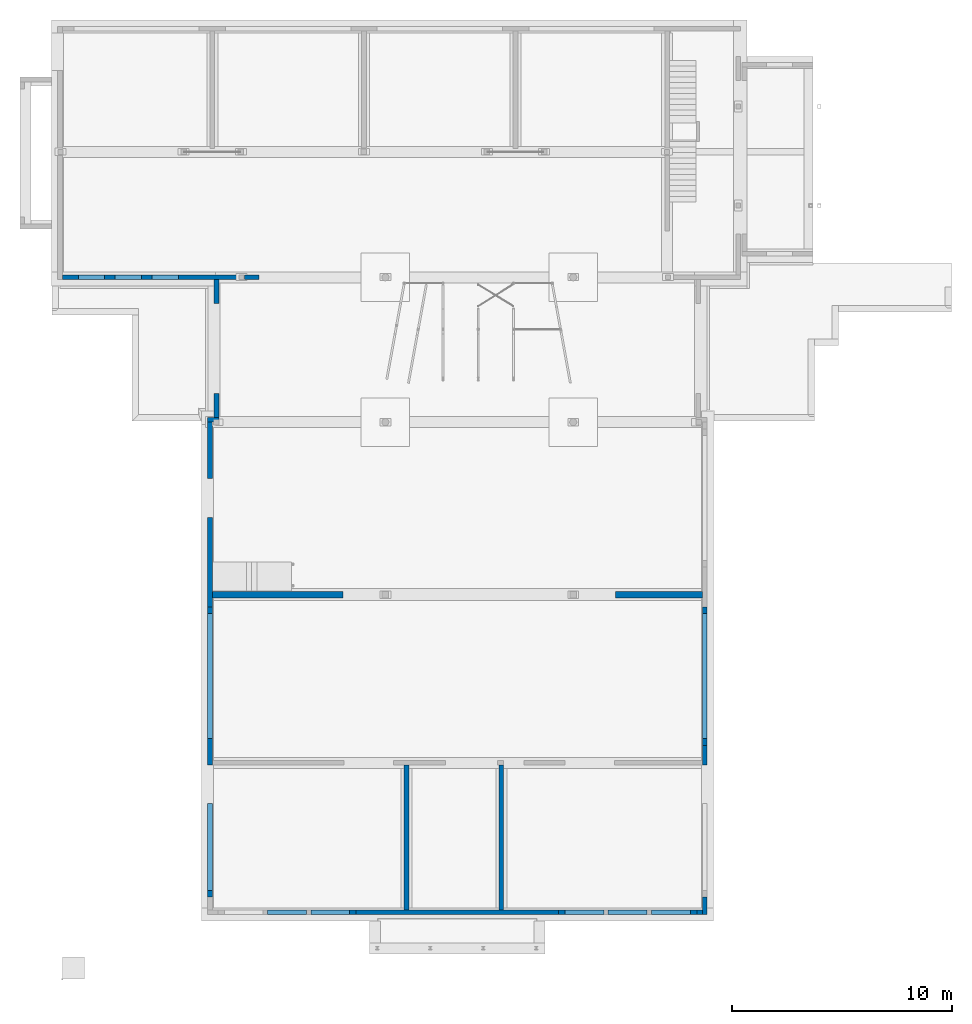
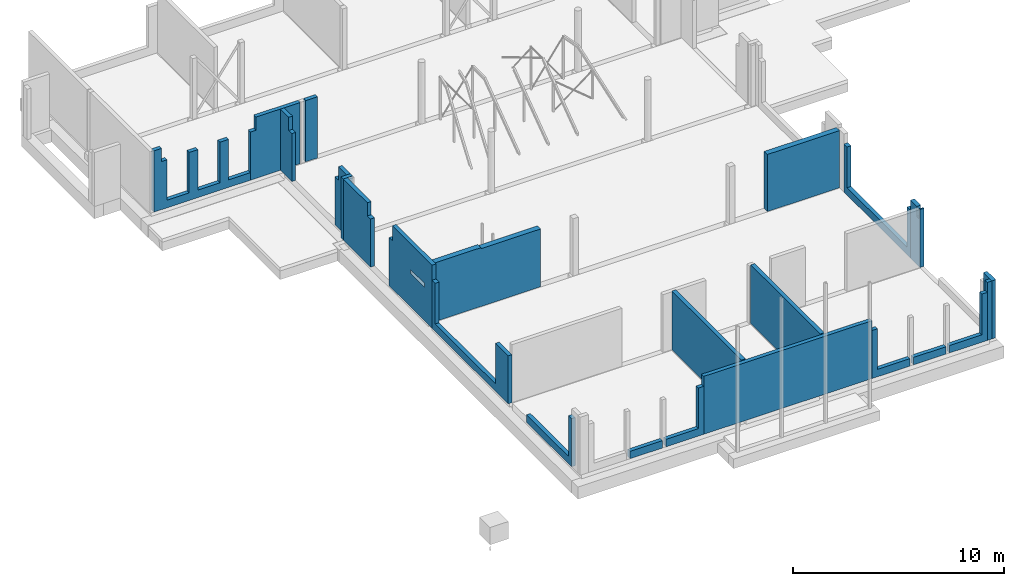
# One storey, part 14 of 17: 23 walls, 22 openings.
"""IFC2X3 building model written with IfcOpenShell, lengths in millimetres."""

from ifc_helpers import new_model, entity, si_unit, converted_unit, derived_unit, direction, frame, frame_2d, origin, origin_2d_with_axis, place, context, subcontext, project, spatial, polyline, rectangle, extrude, clip, bounded_halfspace, material, layer, layer_set, layer_usage, type_object, element, save


model = new_model("IFC2X3")

# Units and contexts
model_context = context("Model", 3, precision=0.01, world=origin(), true_north=direction((6.123031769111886e-17, 1.0)))
body_context = subcontext(model_context, "Body", "Model", "MODEL_VIEW")
ifc_project = project(units=[si_unit("LENGTHUNIT", "METRE", prefix="MILLI"), si_unit("AREAUNIT", "SQUARE_METRE", prefix="MILLI"), si_unit("VOLUMEUNIT", "CUBIC_METRE"), converted_unit("PLANEANGLEUNIT", "DEGREE", entity("IfcPlaneAngleMeasure", 0.017453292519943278), si_unit("PLANEANGLEUNIT", "RADIAN"), dimensions=[0, 0, 0, 0, 0, 0, 0]), si_unit("MASSUNIT", "GRAM", prefix="KILO"), derived_unit("MASSDENSITYUNIT", [(si_unit("MASSUNIT", "GRAM", prefix="KILO"), 1), (si_unit("LENGTHUNIT", "METRE"), -3)]), derived_unit("IONCONCENTRATIONUNIT", [(si_unit("MASSUNIT", "GRAM", prefix="KILO"), 1), (si_unit("LENGTHUNIT", "METRE"), -3)]), derived_unit("MOMENTOFINERTIAUNIT", [(si_unit("LENGTHUNIT", "METRE"), 4)]), si_unit("TIMEUNIT", "SECOND"), si_unit("FREQUENCYUNIT", "HERTZ"), si_unit("THERMODYNAMICTEMPERATUREUNIT", "DEGREE_CELSIUS"), derived_unit("THERMALTRANSMITTANCEUNIT", [(si_unit("MASSUNIT", "GRAM", prefix="KILO"), 1), (si_unit("THERMODYNAMICTEMPERATUREUNIT", "KELVIN"), -1), (si_unit("TIMEUNIT", "SECOND"), -3)]), derived_unit("THERMALCONDUCTANCEUNIT", [(si_unit("MASSUNIT", "GRAM", prefix="KILO"), 1), (si_unit("THERMODYNAMICTEMPERATUREUNIT", "KELVIN"), -1), (si_unit("TIMEUNIT", "SECOND"), -3), (si_unit("LENGTHUNIT", "METRE"), 1)]), derived_unit("VOLUMETRICFLOWRATEUNIT", [(si_unit("LENGTHUNIT", "METRE", prefix="DECI"), 3), (si_unit("TIMEUNIT", "SECOND"), -1)]), derived_unit("MASSFLOWRATEUNIT", [(si_unit("MASSUNIT", "GRAM", prefix="KILO"), 1), (si_unit("TIMEUNIT", "SECOND"), -1)]), derived_unit("ROTATIONALFREQUENCYUNIT", [(si_unit("TIMEUNIT", "SECOND"), -1)]), si_unit("ELECTRICCURRENTUNIT", "AMPERE"), si_unit("ELECTRICVOLTAGEUNIT", "VOLT"), si_unit("POWERUNIT", "WATT"), si_unit("FORCEUNIT", "NEWTON", prefix="KILO"), si_unit("ILLUMINANCEUNIT", "LUX"), si_unit("LUMINOUSFLUXUNIT", "LUMEN"), si_unit("LUMINOUSINTENSITYUNIT", "CANDELA"), si_unit("ENERGYUNIT", "JOULE"), derived_unit("USERDEFINED", [(si_unit("MASSUNIT", "GRAM", prefix="KILO"), -1), (si_unit("LENGTHUNIT", "METRE"), -2), (si_unit("TIMEUNIT", "SECOND"), 3), (si_unit("LUMINOUSFLUXUNIT", "LUMEN"), 1)]), derived_unit("USERDEFINED", [(si_unit("MASSUNIT", "GRAM", prefix="KILO"), 1), (si_unit("TIMEUNIT", "SECOND"), -3), (si_unit("LENGTHUNIT", "METRE"), 3), (si_unit("ELECTRICCURRENTUNIT", "AMPERE"), -2)]), derived_unit("SOUNDPOWERUNIT", [(si_unit("MASSUNIT", "GRAM", prefix="KILO"), 1), (si_unit("TIMEUNIT", "SECOND"), -3), (si_unit("LENGTHUNIT", "METRE"), 2)]), derived_unit("SOUNDPRESSUREUNIT", [(si_unit("MASSUNIT", "GRAM", prefix="KILO"), 1), (si_unit("LENGTHUNIT", "METRE"), -1), (si_unit("TIMEUNIT", "SECOND"), -2)]), derived_unit("LINEARVELOCITYUNIT", [(si_unit("LENGTHUNIT", "METRE"), 1), (si_unit("TIMEUNIT", "SECOND"), -1)]), si_unit("PRESSUREUNIT", "PASCAL"), derived_unit("USERDEFINED", [(si_unit("MASSUNIT", "GRAM", prefix="KILO"), 1), (si_unit("LENGTHUNIT", "METRE"), -2), (si_unit("TIMEUNIT", "SECOND"), -2)]), derived_unit("LINEARFORCEUNIT", [(si_unit("MASSUNIT", "GRAM", prefix="KILO"), 1), (si_unit("TIMEUNIT", "SECOND"), -2)]), derived_unit("PLANARFORCEUNIT", [(si_unit("MASSUNIT", "GRAM", prefix="KILO"), 1), (si_unit("LENGTHUNIT", "METRE"), -1), (si_unit("TIMEUNIT", "SECOND"), -2)]), derived_unit("SPECIFICHEATCAPACITYUNIT", [(si_unit("THERMODYNAMICTEMPERATUREUNIT", "KELVIN"), -1), (si_unit("LENGTHUNIT", "METRE"), 2), (si_unit("TIMEUNIT", "SECOND"), -2)]), derived_unit("HEATFLUXDENSITYUNIT", [(si_unit("MASSUNIT", "GRAM", prefix="KILO"), 1), (si_unit("TIMEUNIT", "SECOND"), -3)]), derived_unit("HEATINGVALUEUNIT", [(si_unit("LENGTHUNIT", "METRE"), 2), (si_unit("TIMEUNIT", "SECOND"), -2)]), derived_unit("VAPORPERMEABILITYUNIT", [(si_unit("LENGTHUNIT", "METRE"), -1), (si_unit("TIMEUNIT", "SECOND"), 1)]), derived_unit("DYNAMICVISCOSITYUNIT", [(si_unit("MASSUNIT", "GRAM", prefix="KILO"), 1), (si_unit("TIMEUNIT", "SECOND"), -1), (si_unit("LENGTHUNIT", "METRE"), -1)]), derived_unit("THERMALEXPANSIONCOEFFICIENTUNIT", [(si_unit("THERMODYNAMICTEMPERATUREUNIT", "KELVIN"), -1)]), derived_unit("MODULUSOFELASTICITYUNIT", [(si_unit("MASSUNIT", "GRAM", prefix="KILO"), 1), (si_unit("LENGTHUNIT", "METRE"), -1), (si_unit("TIMEUNIT", "SECOND"), -2)]), derived_unit("ISOTHERMALMOISTURECAPACITYUNIT", [(si_unit("MASSUNIT", "GRAM", prefix="KILO"), -1), (si_unit("LENGTHUNIT", "METRE"), 3)]), derived_unit("MOISTUREDIFFUSIVITYUNIT", [(si_unit("TIMEUNIT", "SECOND"), -1), (si_unit("LENGTHUNIT", "METRE"), 2)]), derived_unit("MASSPERLENGTHUNIT", [(si_unit("MASSUNIT", "GRAM", prefix="KILO"), 1), (si_unit("LENGTHUNIT", "METRE"), -1)]), derived_unit("THERMALRESISTANCEUNIT", [(si_unit("MASSUNIT", "GRAM", prefix="KILO"), -1), (si_unit("TIMEUNIT", "SECOND"), 3), (si_unit("THERMODYNAMICTEMPERATUREUNIT", "KELVIN"), 1)]), derived_unit("ACCELERATIONUNIT", [(si_unit("LENGTHUNIT", "METRE"), 1), (si_unit("TIMEUNIT", "SECOND"), -2)]), derived_unit("ANGULARVELOCITYUNIT", [(si_unit("TIMEUNIT", "SECOND"), -1), (si_unit("PLANEANGLEUNIT", "RADIAN"), 1)]), derived_unit("LINEARSTIFFNESSUNIT", [(si_unit("MASSUNIT", "GRAM", prefix="KILO"), 1), (si_unit("TIMEUNIT", "SECOND"), -2)]), derived_unit("WARPINGCONSTANTUNIT", [(si_unit("LENGTHUNIT", "METRE"), 6)]), derived_unit("LINEARMOMENTUNIT", [(si_unit("MASSUNIT", "GRAM", prefix="KILO"), 1), (si_unit("LENGTHUNIT", "METRE"), 1), (si_unit("TIMEUNIT", "SECOND"), -2)]), derived_unit("TORQUEUNIT", [(si_unit("MASSUNIT", "GRAM", prefix="KILO"), 1), (si_unit("LENGTHUNIT", "METRE"), 2), (si_unit("TIMEUNIT", "SECOND"), -2)])], contexts=[model_context])

# Site, building, storey
site_placement = place(None, origin())
site = spatial("IfcSite", under=ifc_project, at=site_placement, Name="Default", CompositionType="ELEMENT")
building_placement = place(site_placement, origin())
building = spatial("IfcBuilding", under=site, at=building_placement, CompositionType="ELEMENT")
storey_placement = place(building_placement, frame((0.0, 0.0, -70.0)))
storey = spatial("IfcBuildingStorey", under=building, at=storey_placement, Name="F1 begg (bk ruwe vloer)", CompositionType="ELEMENT", Elevation=-69.99999999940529)

# Wall, openings
ifc_material = material(Name="Kalkzandsteen, lijmwerk CS12")
ifc_layer_1 = layer(ifc_material, 214.0)
ifc_layer_set_1 = layer_set([ifc_layer_1], Name="Basic Wall:bt_kzst 214")
ifc_layer_usage_1 = layer_usage(ifc_layer_set_1, "AXIS2", "POSITIVE", -107.0)
wall_type_1 = type_object("IfcWallType", Name="Basic Wall:bt_kzst 214", PredefinedType="STANDARD", material=ifc_layer_set_1)
wall_1_placement = place(storey_placement, frame((0.0, 31937.573165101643, 0.0)))
wall_1 = element("IfcWallStandardCase", 1, at=wall_1_placement, inside=storey, type_object=wall_type_1, material=ifc_layer_usage_1, Name="Basic Wall:bt_kzst 214", ObjectType="Basic Wall:bt_kzst 214", context=body_context, shape_type="SweptSolid", body=[
    extrude(rectangle(XDim=5285.648410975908, YDim=214.00000000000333, at=frame_2d((2642.824205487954, -3.055333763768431e-13), x_axis=(-1.0, 0.0))), origin(), (0.0, 0.0, 1.0), 3539.9999999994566),
])
opening_1_placement = place(wall_1_placement, origin())
element("IfcOpeningElement", 2, at=opening_1_placement, cuts=wall_1, Name="Basic Wall:bt_kzst 214", ObjectType="Opening", context=body_context, shape_type="SweptSolid", body=[
    extrude(rectangle(XDim=1222.0000000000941, YDim=4859.996607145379, at=frame_2d((2.8421709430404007e-13, 0.0), x_axis=(1.0, 0.0))), frame((2855.650107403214, -107.0, 3389.0), z_axis=(0.0, 1.0, 0.0), x_axis=(0.0, 0.0, -1.0)), (0.0, 0.0, 1.0), 214.00000000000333),
])
opening_2_placement = place(wall_1_placement, frame((0.0, -31937.573165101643, 0.0)))
element("IfcOpeningElement", 3, at=opening_2_placement, cuts=wall_1, Name="Basic Wall:bt_kzst 214", ObjectType="Opening", context=body_context, shape_type="SweptSolid", body=[
    extrude(rectangle(XDim=2339.9999999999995, YDim=1200.284760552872, at=frame_2d((0.0, 1.1368683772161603e-13), x_axis=(1.0, 0.0))), frame((1325.832945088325, 30520.573165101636, 1608.0), z_axis=(0.0, 1.0, 0.0), x_axis=(0.0, 0.0, -1.0)), (0.0, 0.0, 1.0), 3048.0),
])
opening_3_placement = place(wall_1_placement, frame((0.0, -31937.573165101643, 0.0)))
element("IfcOpeningElement", 4, at=opening_3_placement, cuts=wall_1, Name="Basic Wall:bt_kzst 214", ObjectType="Opening", context=body_context, shape_type="SweptSolid", body=[
    extrude(rectangle(XDim=2339.9999999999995, YDim=1200.2847605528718, at=frame_2d((0.0, 2.8421709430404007e-13), x_axis=(1.0, 0.0))), frame((3005.7204526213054, 30520.573165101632, 1608.0), z_axis=(0.0, 1.0, 0.0), x_axis=(0.0, 0.0, -1.0)), (0.0, 0.0, 1.0), 3048.0),
])
opening_4_placement = place(wall_1_placement, frame((0.0, -31937.573165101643, 0.0)))
element("IfcOpeningElement", 5, at=opening_4_placement, cuts=wall_1, Name="Basic Wall:bt_kzst 214", ObjectType="Opening", context=body_context, shape_type="SweptSolid", body=[
    extrude(rectangle(XDim=2339.9999999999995, YDim=1200.2847605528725, at=frame_2d((0.0, -2.8421709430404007e-13), x_axis=(1.0, 0.0))), frame((4685.607838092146, 30520.57316510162, 1608.0), z_axis=(0.0, 1.0, 0.0), x_axis=(0.0, 0.0, -1.0)), (0.0, 0.0, 1.0), 3048.0),
])

wall_2_placement = place(storey_placement, frame((5285.648410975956, 31937.57320506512, 0.0)))
wall_2 = element("IfcWallStandardCase", 6, at=wall_2_placement, inside=storey, type_object=wall_type_1, material=ifc_layer_usage_1, Name="Basic Wall:bt_kzst 214", ObjectType="Basic Wall:bt_kzst 214", context=body_context, shape_type="SweptSolid", body=[
    extrude(rectangle(XDim=2714.907913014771, YDim=214.00000000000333, at=frame_2d((1357.4539565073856, 4.831690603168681e-13), x_axis=(-1.0, 0.0))), origin(), (0.0, 0.0, 1.0), 3539.999999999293),
])
opening_5_placement = place(wall_2_placement, origin())
element("IfcOpeningElement", 7, at=opening_5_placement, cuts=wall_2, Name="Basic Wall:bt_kzst 214", ObjectType="Opening", context=body_context, shape_type="SweptSolid", body=[
    extrude(rectangle(XDim=1222.0000000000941, YDim=300.0000000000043, at=frame_2d((2.8421709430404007e-13, 5.542233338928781e-13), x_axis=(1.0, 0.0))), frame((150.0, -107.0, 3389.0), z_axis=(0.0, 1.0, 0.0), x_axis=(0.0, 0.0, -1.0)), (0.0, 0.0, 1.0), 214.00000000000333),
])
opening_6_placement = place(wall_2_placement, origin())
element("IfcOpeningElement", 8, at=opening_6_placement, cuts=wall_2, Name="Basic Wall:bt_kzst 214", ObjectType="Opening", context=body_context, shape_type="SweptSolid", body=[
    extrude(rectangle(XDim=2339.9999999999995, YDim=1200.2847605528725, at=frame_2d((0.0, -2.8421709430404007e-13), x_axis=(1.0, 0.0))), frame((-600.0405728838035, -1417.0000399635, 1608.0), z_axis=(0.0, 1.0, 0.0), x_axis=(0.0, 0.0, -1.0)), (0.0, 0.0, 1.0), 3048.0),
])

# Wall, opening
wall_3_placement = place(storey_placement, frame((7018.024359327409, 31830.573205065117, 0.0), z_axis=(0.0, 0.0, 1.0), x_axis=(0.0, -1.0, 0.0)))
wall_3 = element("IfcWallStandardCase", 9, at=wall_3_placement, inside=storey, type_object=wall_type_1, material=ifc_layer_usage_1, Name="Basic Wall:bt_kzst 214", ObjectType="Basic Wall:bt_kzst 214", context=body_context, shape_type="Clipping", body=[
    clip(extrude(rectangle(XDim=1084.0633514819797, YDim=214.00000000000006, at=frame_2d((542.0316757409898, 3.481659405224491e-13), x_axis=(-1.0, 0.0))), origin(), (0.0, 0.0, 1.0), 3539.999999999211), bounded_halfspace(frame((0.0, 107.0, 3540.0), z_axis=(0.0, 0.0, -1.0), x_axis=(0.0, -1.0, 0.0)), True, frame((0.0, 107.0, 3540.0)), polyline([(0.0, 0.0), (0.0, -214.0), (784.06335148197, -214.0), (784.06335148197, 0.0), (0.0, 0.0)]))),
])
opening_7_placement = place(wall_3_placement, origin())
element("IfcOpeningElement", 10, at=opening_7_placement, cuts=wall_3, Name="Basic Wall:bt_kzst 214", ObjectType="Opening", context=body_context, shape_type="SweptSolid", body=[
    extrude(rectangle(XDim=1171.9999999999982, YDim=300.00000000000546, at=frame_2d((2.8421709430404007e-13, -2.1742607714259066e-12), x_axis=(1.0, 0.0))), frame((934.0633514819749, -107.0, 3364.0), z_axis=(0.0, 1.0, 0.0), x_axis=(0.0, 0.0, -1.0)), (0.0, 0.0, 1.0), 213.999999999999),
])

wall_4_placement = place(storey_placement, frame((6718.000781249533, 25344.57843432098, 0.0), z_axis=(0.0, 0.0, 1.0), x_axis=(0.0, -1.0, 0.0)))
wall_4 = element("IfcWallStandardCase", 11, at=wall_4_placement, inside=storey, type_object=wall_type_1, material=ifc_layer_usage_1, Name="Basic Wall:bt_kzst 214", ObjectType="Basic Wall:bt_kzst 214", context=body_context, shape_type="SweptSolid", body=[
    extrude(rectangle(XDim=2573.4426529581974, YDim=214.00000000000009, at=frame_2d((1286.7213264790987, -6.252776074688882e-13), x_axis=(-1.0, 0.0))), origin(), (0.0, 0.0, 1.0), 3539.999999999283),
])
opening_8_placement = place(wall_4_placement, origin())
element("IfcOpeningElement", 12, at=opening_8_placement, cuts=wall_4, Name="Basic Wall:bt_kzst 214", ObjectType="Opening", context=body_context, shape_type="SweptSolid", body=[
    extrude(rectangle(XDim=1222.0000000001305, YDim=300.0000000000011, at=origin_2d_with_axis()), frame((2423.4426529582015, -107.0, 3389.0), z_axis=(0.0, 1.0, 0.0), x_axis=(0.0, 0.0, -1.0)), (0.0, 0.0, 1.0), 213.99999999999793),
])

# Walls
ifc_layer_usage_2 = layer_usage(ifc_layer_set_1, "AXIS2", "NEGATIVE", 107.0)
wall_5_placement = place(storey_placement, frame((6611.000781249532, 25451.578434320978, 0.0)))
element("IfcWallStandardCase", 13, at=wall_5_placement, inside=storey, type_object=wall_type_1, material=ifc_layer_usage_2, Name="Basic Wall:bt_kzst 214", ObjectType="Basic Wall:bt_kzst 214", context=body_context, shape_type="Clipping", body=[
    clip(extrude(rectangle(XDim=514.0235780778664, YDim=214.00000000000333, at=frame_2d((257.0117890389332, 0.0), x_axis=(-1.0, 0.0))), origin(), (0.0, 0.0, 1.0), 3539.9999999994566), bounded_halfspace(frame((514.0235780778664, 33.026578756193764, 3540.0), z_axis=(0.0, 0.0, -1.0), x_axis=(-1.0, 0.0, 0.0)), True, frame((514.0235780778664, 33.026578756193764, 3540.0)), polyline([(0.0, 0.0), (0.0, 73.9734212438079), (-214.0, 73.9734212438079), (-214.0, 0.0), (0.0, 0.0)]))),
])
wall_6_placement = place(storey_placement, frame((29231.985770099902, 2930.605013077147, 0.0), z_axis=(0.0, 0.0, 1.0), x_axis=(0.0, 1.0, 0.0)))
element("IfcWallStandardCase", 14, at=wall_6_placement, inside=storey, type_object=wall_type_1, material=ifc_layer_usage_1, Name="Basic Wall:bt_kzst 214", ObjectType="Basic Wall:bt_kzst 214", context=body_context, shape_type="Clipping", body=[
    clip(extrude(rectangle(XDim=807.0000000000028, YDim=214.00000000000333, at=frame_2d((403.5000000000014, -1.8332002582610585e-12), x_axis=(-1.0, 0.0))), origin(), (0.0, 0.0, 1.0), 3349.9999999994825), bounded_halfspace(frame((0.0, -107.0, 3350.0), z_axis=(0.0, 0.0, -1.0), x_axis=(-1.0, 0.0, 0.0)), True, frame((0.0, -107.0, 3350.0)), polyline([(0.0, 0.0), (807.0, 0.0), (807.0, 214.0), (214.0, 214.0), (0.0, 214.0), (0.0, 0.0)]))),
])
wall_7_placement = place(storey_placement, frame((15664.841685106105, 9737.605013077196, 0.0), z_axis=(0.0, 0.0, 1.0), x_axis=(0.0, -1.0, 0.0)))
element("IfcWallStandardCase", 15, at=wall_7_placement, inside=storey, type_object=wall_type_1, material=ifc_layer_usage_2, Name="Basic Wall:bt_kzst 214", ObjectType="Basic Wall:bt_kzst 214", context=body_context, shape_type="SweptSolid", body=[
    extrude(rectangle(XDim=6593.000000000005, YDim=213.99999999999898, at=frame_2d((3296.5000000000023, -7.815970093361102e-14), x_axis=(-1.0, 0.0))), origin(), (0.0, 0.0, 1.0), 3399.9999999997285),
])
wall_8_placement = place(storey_placement, frame((19978.355754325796, 9737.605013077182, 0.0), z_axis=(0.0, 0.0, 1.0), x_axis=(0.0, -1.0, 0.0)))
element("IfcWallStandardCase", 16, at=wall_8_placement, inside=storey, type_object=wall_type_1, material=ifc_layer_usage_2, Name="Basic Wall:bt_kzst 214", ObjectType="Basic Wall:bt_kzst 214", context=body_context, shape_type="SweptSolid", body=[
    extrude(rectangle(XDim=6593.000000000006, YDim=214.00000000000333, at=frame_2d((3296.500000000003, 1.0089706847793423e-12), x_axis=(-1.0, 0.0))), origin(), (0.0, 0.0, 1.0), 3399.9999999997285),
])

# Wall, openings
wall_9_placement = place(storey_placement, frame((6718.000781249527, 21011.0503279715, 0.0), z_axis=(0.0, 0.0, 1.0), x_axis=(0.0, -1.0, 0.0)))
wall_9 = element("IfcWallStandardCase", 17, at=wall_9_placement, inside=storey, type_object=wall_type_1, material=ifc_layer_usage_1, Name="Basic Wall:bt_kzst 214", ObjectType="Basic Wall:bt_kzst 214", context=body_context, shape_type="SweptSolid", body=[
    extrude(rectangle(XDim=4067.651496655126, YDim=213.999999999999, at=frame_2d((2033.825748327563, 0.0), x_axis=(-1.0, 0.0))), origin(), (0.0, 0.0, 1.0), 3649.9999999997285),
])
opening_9_placement = place(wall_9_placement, origin())
element("IfcOpeningElement", 18, at=opening_9_placement, cuts=wall_9, Name="Basic Wall:bt_kzst 214", ObjectType="Opening", context=body_context, shape_type="SweptSolid", body=[
    extrude(rectangle(XDim=1172.0000000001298, YDim=300.0000000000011, at=origin_2d_with_axis()), frame((150.0, -107.0, 3364.0), z_axis=(0.0, 1.0, 0.0), x_axis=(0.0, 0.0, -1.0)), (0.0, 0.0, 1.0), 213.99999999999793),
])
opening_10_placement = place(wall_9_placement, origin())
element("IfcOpeningElement", 19, at=opening_10_placement, cuts=wall_9, Name="Basic Wall:bt_kzst 214", ObjectType="Opening", context=body_context, shape_type="SweptSolid", body=[
    extrude(rectangle(XDim=219.9999999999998, YDim=1311.1778183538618, at=frame_2d((1.0800249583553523e-12, 0.0), x_axis=(0.0, 1.0))), frame((2685.8564057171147, -107.0, 2049.9990234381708), z_axis=(0.0, 1.0, 0.0), x_axis=(1.0, 0.0, 0.0)), (0.0, 0.0, 1.0), 214.00000000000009),
])

# Wall
wall_10_placement = place(storey_placement, frame((8300.556323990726, 31937.573165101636, 0.0)))
element("IfcWallStandardCase", 20, at=wall_10_placement, inside=storey, type_object=wall_type_1, material=ifc_layer_usage_1, Name="Basic Wall:bt_kzst 214", ObjectType="Basic Wall:bt_kzst 214", context=body_context, shape_type="SweptSolid", body=[
    extrude(rectangle(XDim=649.0698295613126, YDim=214.00000000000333, at=frame_2d((324.5349147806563, -1.0160761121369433e-12), x_axis=(-1.0, 0.0))), origin(), (0.0, 0.0, 1.0), 3539.999999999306),
])

# Wall, opening
wall_11_placement = place(storey_placement, frame((7018.024359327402, 26642.309544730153, 0.0), z_axis=(0.0, 0.0, 1.0), x_axis=(0.0, -1.0, 0.0)))
wall_11 = element("IfcWallStandardCase", 21, at=wall_11_placement, inside=storey, type_object=wall_type_1, material=ifc_layer_usage_1, Name="Basic Wall:bt_kzst 214", ObjectType="Basic Wall:bt_kzst 214", context=body_context, shape_type="Clipping", body=[
    clip(extrude(rectangle(XDim=1083.7311104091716, YDim=214.00000000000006, at=frame_2d((541.8655552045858, -7.318590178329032e-13), x_axis=(-1.0, 0.0))), origin(), (0.0, 0.0, 1.0), 3539.999999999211), bounded_halfspace(frame((1083.7311104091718, -107.0, 3540.0), z_axis=(0.0, 0.0, -1.0), x_axis=(0.0, -1.0, 0.0)), True, frame((1083.7311104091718, -107.0, 3540.0)), polyline([(0.0, 0.0), (0.0, 214.0), (-783.7311104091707, 214.0), (-783.7311104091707, 0.0), (0.0, 0.0)]))),
])
opening_11_placement = place(wall_11_placement, origin())
element("IfcOpeningElement", 22, at=opening_11_placement, cuts=wall_11, Name="Basic Wall:bt_kzst 214", ObjectType="Opening", context=body_context, shape_type="SweptSolid", body=[
    extrude(rectangle(XDim=1171.9999999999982, YDim=300.0000000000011, at=frame_2d((2.8421709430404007e-13, 0.0), x_axis=(1.0, 0.0))), frame((150.0, -107.0, 3364.0), z_axis=(0.0, 1.0, 0.0), x_axis=(0.0, 0.0, -1.0)), (0.0, 0.0, 1.0), 213.99999999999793),
])

# Walls
wall_12_placement = place(storey_placement, frame((13375.237853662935, 3037.6050130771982, 0.0)))
element("IfcWallStandardCase", 23, at=wall_12_placement, inside=storey, type_object=wall_type_1, material=ifc_layer_usage_1, Name="Basic Wall:bt_kzst 214", ObjectType="Basic Wall:bt_kzst 214", context=body_context, shape_type="Clipping", body=[
    clip(extrude(rectangle(XDim=9200.408467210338, YDim=214.00000000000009, at=frame_2d((4600.204233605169, 1.7763568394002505e-13), x_axis=(-1.0, 0.0))), origin(), (0.0, 0.0, 1.0), 3349.9999999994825), bounded_halfspace(frame((0.0, -107.0, 3350.0), z_axis=(0.0, 0.0, -1.0), x_axis=(0.0, -1.0, 0.0)), True, frame((0.0, -107.0, 3350.0)), polyline([(0.0, 0.0), (9200.408467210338, 0.0), (9200.408467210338, 214.0), (0.0, 214.0), (0.0, 0.0)]))),
])
wall_13_placement = place(storey_placement, frame((28875.947849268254, 3037.6050130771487, 0.0)))
element("IfcWallStandardCase", 24, at=wall_13_placement, inside=storey, type_object=wall_type_1, material=ifc_layer_usage_1, Name="Basic Wall:bt_kzst 214", ObjectType="Basic Wall:bt_kzst 214", context=body_context, shape_type="Clipping", body=[
    clip(extrude(rectangle(XDim=249.0379208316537, YDim=214.00000000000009, at=frame_2d((124.51896041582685, 1.2789769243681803e-13), x_axis=(-1.0, 0.0))), origin(), (0.0, 0.0, 1.0), 3349.999999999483), bounded_halfspace(frame((0.0, -107.0, 3350.0), z_axis=(0.0, 0.0, -1.0), x_axis=(0.0, -1.0, 0.0)), True, frame((0.0, -107.0, 3350.0)), polyline([(0.0, 0.0), (249.03792083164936, 0.0), (249.037920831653, 214.0), (0.0, 214.0), (0.0, 0.0)]))),
])

# Wall, opening
wall_14_placement = place(storey_placement, frame((29231.98577009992, 9737.605013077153, 0.0), z_axis=(0.0, 0.0, 1.0), x_axis=(0.0, 1.0, 0.0)))
wall_14 = element("IfcWallStandardCase", 25, at=wall_14_placement, inside=storey, type_object=wall_type_1, material=ifc_layer_usage_1, Name="Basic Wall:bt_kzst 214", ObjectType="Basic Wall:bt_kzst 214", context=body_context, shape_type="Clipping", body=[
    clip(extrude(rectangle(XDim=900.7427120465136, YDim=214.00000000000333, at=frame_2d((450.3713560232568, 0.0), x_axis=(-1.0, 0.0))), origin(), (0.0, 0.0, 1.0), 3349.9999999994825), bounded_halfspace(frame((900.7427120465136, -107.0, 3350.0), z_axis=(0.0, 0.0, -1.0), x_axis=(1.0, 0.0, 0.0)), True, frame((900.7427120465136, -107.0, 3350.0)), polyline([(0.0, 0.0), (0.0, 214.0), (-600.4648664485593, 214.0), (-600.4648664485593, 0.0), (0.0, 0.0)]))),
])
opening_12_placement = place(wall_14_placement, origin())
element("IfcOpeningElement", 26, at=opening_12_placement, cuts=wall_14, Name="Basic Wall:bt_kzst 214", ObjectType="Opening", context=body_context, shape_type="SweptSolid", body=[
    extrude(rectangle(XDim=1031.9999999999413, YDim=221.32183320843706, at=frame_2d((2.2737367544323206e-13, 1.0800249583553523e-12), x_axis=(1.0, 0.0))), frame((189.61692899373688, -107.0, 3294.0), z_axis=(0.0, 1.0, 0.0), x_axis=(0.0, 0.0, -1.0)), (0.0, 0.0, 1.0), 214.00000000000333),
])

# Wall, openings
wall_15_placement = place(storey_placement, frame((6718.000781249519, 16943.398831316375, 0.0), z_axis=(0.0, 0.0, 1.0), x_axis=(0.0, -1.0, 0.0)))
wall_15 = element("IfcWallStandardCase", 27, at=wall_15_placement, inside=storey, type_object=wall_type_1, material=ifc_layer_usage_1, Name="Basic Wall:bt_kzst 214", ObjectType="Basic Wall:bt_kzst 214", context=body_context, shape_type="SweptSolid", body=[
    extrude(rectangle(XDim=214.00000000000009, YDim=13205.793818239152, at=frame_2d((6602.896909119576, -3.055333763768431e-13), x_axis=(0.0, 1.0))), origin(), (0.0, 0.0, 1.0), 2777.9999999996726),
])
opening_13_placement = place(wall_15_placement, frame((16943.398831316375, -6718.000781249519, 0.0), z_axis=(0.0, 0.0, 1.0), x_axis=(0.0, 1.0, 0.0)))
element("IfcOpeningElement", 28, at=opening_13_placement, cuts=wall_15, Name="Basic Wall:bt_kzst 214", ObjectType="Opening", context=body_context, shape_type="SweptSolid", body=[
    extrude(rectangle(XDim=2348.000000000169, YDim=5700.300226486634, at=origin_2d_with_axis()), frame((5301.000781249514, 13792.230385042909, 1604.0), z_axis=(1.0, 0.0, 0.0), x_axis=(0.0, 0.0, -1.0)), (0.0, 0.0, 1.0), 3048.0),
])
opening_14_placement = place(wall_15_placement, frame((16943.398831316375, -6718.000781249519, 0.0), z_axis=(0.0, 0.0, 1.0), x_axis=(0.0, 1.0, 0.0)))
element("IfcOpeningElement", 29, at=opening_14_placement, cuts=wall_15, Name="Basic Wall:bt_kzst 214", ObjectType="Opening", context=body_context, shape_type="SweptSolid", body=[
    extrude(rectangle(XDim=2348.000000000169, YDim=3955.208315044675, at=origin_2d_with_axis()), frame((5301.000781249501, 6018.914725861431, 1604.0), z_axis=(1.0, 0.0, 0.0), x_axis=(0.0, 0.0, -1.0)), (0.0, 0.0, 1.0), 3048.0),
])
opening_15_placement = place(wall_15_placement, frame((16943.398831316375, -6718.000781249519, 0.0), z_axis=(0.0, 0.0, 1.0), x_axis=(0.0, 1.0, 0.0)))
element("IfcOpeningElement", 30, at=opening_15_placement, cuts=wall_15, Name="Basic Wall:bt_kzst 214", ObjectType="Opening", context=body_context, shape_type="SweptSolid", body=[
    extrude(rectangle(XDim=2778.000000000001, YDim=1741.0861296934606, at=frame_2d((0.0, 5.684341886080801e-13), x_axis=(1.0, 0.0))), frame((6318.000781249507, 8867.061948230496, 1389.0), z_axis=(1.0, 0.0, 0.0), x_axis=(0.0, 0.0, -1.0)), (0.0, 0.0, 1.0), 800.0),
])

# Wall, opening
wall_16_placement = place(storey_placement, frame((22575.646320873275, 3037.605013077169, 0.0)))
wall_16 = element("IfcWallStandardCase", 31, at=wall_16_placement, inside=storey, type_object=wall_type_1, material=ifc_layer_usage_1, Name="Basic Wall:bt_kzst 214", ObjectType="Basic Wall:bt_kzst 214", context=body_context, shape_type="SweptSolid", body=[
    extrude(rectangle(XDim=2063.4138425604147, YDim=214.00000000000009, at=frame_2d((1031.7069212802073, -1.7763568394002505e-13), x_axis=(-1.0, 0.0))), origin(), (0.0, 0.0, 1.0), 2777.9999999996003),
])
opening_16_placement = place(wall_16_placement, origin())
element("IfcOpeningElement", 32, at=opening_16_placement, cuts=wall_16, Name="Basic Wall:bt_kzst 214", ObjectType="Opening", context=body_context, shape_type="SweptSolid", body=[
    extrude(rectangle(XDim=2348.0, YDim=5700.32586260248, at=frame_2d((0.0, 2.0463630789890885e-12), x_axis=(1.0, 0.0))), frame((3150.163175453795, -1417.0, 1604.0), z_axis=(0.0, 1.0, 0.0), x_axis=(0.0, 0.0, -1.0)), (0.0, 0.0, 1.0), 3048.0),
])

wall_17_placement = place(storey_placement, frame((29231.98577009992, 10638.347725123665, 0.0), z_axis=(0.0, 0.0, 1.0), x_axis=(0.0, 1.0, 0.0)))
wall_17 = element("IfcWallStandardCase", 33, at=wall_17_placement, inside=storey, type_object=wall_type_1, material=ifc_layer_usage_1, Name="Basic Wall:bt_kzst 214", ObjectType="Basic Wall:bt_kzst 214", context=body_context, shape_type="SweptSolid", body=[
    extrude(rectangle(XDim=6300.277845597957, YDim=214.00000000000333, at=frame_2d((3150.1389227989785, 0.0), x_axis=(-1.0, 0.0))), origin(), (0.0, 0.0, 1.0), 2777.9999999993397),
])
opening_17_placement = place(wall_17_placement, frame((-10638.347725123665, 29231.98577009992, 0.0), z_axis=(0.0, 0.0, 1.0), x_axis=(0.0, -1.0, 0.0)))
element("IfcOpeningElement", 34, at=opening_17_placement, cuts=wall_17, Name="Basic Wall:bt_kzst 214", ObjectType="Opening", context=body_context, shape_type="SweptSolid", body=[
    extrude(rectangle(XDim=2348.000000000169, YDim=5700.300226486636, at=frame_2d((-2.2737367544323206e-12, 0.0), x_axis=(0.0, 1.0))), frame((30862.985770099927, 13792.230385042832, 1604.0), z_axis=(-1.0, 0.0, 0.0), x_axis=(0.0, 1.0, 0.0)), (0.0, 0.0, 1.0), 3048.0),
])

wall_18_placement = place(storey_placement, frame((9340.144912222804, 3037.6050130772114, 0.0)))
wall_18 = element("IfcWallStandardCase", 35, at=wall_18_placement, inside=storey, type_object=wall_type_1, material=ifc_layer_usage_1, Name="Basic Wall:bt_kzst 214", ObjectType="Basic Wall:bt_kzst 214", context=body_context, shape_type="SweptSolid", body=[
    extrude(rectangle(XDim=1769.829029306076, YDim=214.00000000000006, at=frame_2d((884.9145146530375, 1.6342482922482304e-13), x_axis=(-1.0, 0.0))), origin(), (0.0, 0.0, 1.0), 429.9999999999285),
])
opening_18_placement = place(wall_18_placement, frame((-9340.144912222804, -3037.6050130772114, 0.0)))
element("IfcOpeningElement", 36, at=opening_18_placement, cuts=wall_18, Name="Basic Wall:bt_kzst 214", ObjectType="Opening", context=body_context, shape_type="SweptSolid", body=[
    extrude(rectangle(XDim=2348.0, YDim=5700.32586260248, at=frame_2d((0.0, 6.821210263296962e-13), x_axis=(1.0, 0.0))), frame((10225.856329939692, 1620.6050130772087, 1604.0), z_axis=(0.0, 1.0, 0.0), x_axis=(0.0, 0.0, -1.0)), (0.0, 0.0, 1.0), 3048.0),
])

wall_19_placement = place(storey_placement, frame((11309.973941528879, 3037.6050130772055, 0.0)))
wall_19 = element("IfcWallStandardCase", 37, at=wall_19_placement, inside=storey, type_object=wall_type_1, material=ifc_layer_usage_1, Name="Basic Wall:bt_kzst 214", ObjectType="Basic Wall:bt_kzst 214", context=body_context, shape_type="SweptSolid", body=[
    extrude(rectangle(XDim=2065.263912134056, YDim=214.00000000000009, at=frame_2d((1032.631956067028, -1.7763568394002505e-13), x_axis=(-1.0, 0.0))), origin(), (0.0, 0.0, 1.0), 2777.9999999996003),
])
opening_19_placement = place(wall_19_placement, origin())
element("IfcOpeningElement", 38, at=opening_19_placement, cuts=wall_19, Name="Basic Wall:bt_kzst 214", ObjectType="Opening", context=body_context, shape_type="SweptSolid", body=[
    extrude(rectangle(XDim=2348.0, YDim=5700.32586260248, at=frame_2d((0.0, 6.821210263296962e-13), x_axis=(1.0, 0.0))), frame((-1084.1176115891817, -1417.0, 1604.0), z_axis=(0.0, 1.0, 0.0), x_axis=(0.0, 0.0, -1.0)), (0.0, 0.0, 1.0), 3048.0),
])

wall_20_placement = place(storey_placement, frame((24839.060163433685, 3037.6050130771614, 0.0)))
wall_20 = element("IfcWallStandardCase", 39, at=wall_20_placement, inside=storey, type_object=wall_type_1, material=ifc_layer_usage_1, Name="Basic Wall:bt_kzst 214", ObjectType="Basic Wall:bt_kzst 214", context=body_context, shape_type="SweptSolid", body=[
    extrude(rectangle(XDim=1769.829029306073, YDim=214.00000000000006, at=frame_2d((884.9145146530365, -1.0658141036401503e-13), x_axis=(-1.0, 0.0))), origin(), (0.0, 0.0, 1.0), 429.99999999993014),
])
opening_20_placement = place(wall_20_placement, frame((-24839.060163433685, -3037.6050130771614, 0.0)))
element("IfcOpeningElement", 40, at=opening_20_placement, cuts=wall_20, Name="Basic Wall:bt_kzst 214", ObjectType="Opening", context=body_context, shape_type="SweptSolid", body=[
    extrude(rectangle(XDim=2348.0, YDim=5700.32586260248, at=frame_2d((0.0, 2.0463630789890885e-12), x_axis=(1.0, 0.0))), frame((25725.809496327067, 1620.605013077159, 1604.0), z_axis=(0.0, 1.0, 0.0), x_axis=(0.0, 0.0, -1.0)), (0.0, 0.0, 1.0), 3048.0),
])

wall_21_placement = place(storey_placement, frame((26808.889192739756, 3037.605013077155, 0.0)))
wall_21 = element("IfcWallStandardCase", 41, at=wall_21_placement, inside=storey, type_object=wall_type_1, material=ifc_layer_usage_1, Name="Basic Wall:bt_kzst 214", ObjectType="Basic Wall:bt_kzst 214", context=body_context, shape_type="SweptSolid", body=[
    extrude(rectangle(XDim=2067.0586565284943, YDim=214.00000000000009, at=frame_2d((1033.5293282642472, 9.237055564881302e-14), x_axis=(-1.0, 0.0))), origin(), (0.0, 0.0, 1.0), 2777.9999999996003),
])
opening_21_placement = place(wall_21_placement, origin())
element("IfcOpeningElement", 42, at=opening_21_placement, cuts=wall_21, Name="Basic Wall:bt_kzst 214", ObjectType="Opening", context=body_context, shape_type="SweptSolid", body=[
    extrude(rectangle(XDim=2348.0, YDim=5700.32586260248, at=frame_2d((0.0, 2.0463630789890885e-12), x_axis=(1.0, 0.0))), frame((-1083.079696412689, -1417.0, 1604.0), z_axis=(0.0, 1.0, 0.0), x_axis=(0.0, 0.0, -1.0)), (0.0, 0.0, 1.0), 3048.0),
])

ifc_layer_2 = layer(ifc_material, 300.0)
ifc_layer_set_2 = layer_set([ifc_layer_2], Name="Basic Wall:bt_kzst 300")
ifc_layer_usage_3 = layer_usage(ifc_layer_set_2, "AXIS2", "POSITIVE", -150.0)
wall_type_2 = type_object("IfcWallType", Name="Basic Wall:bt_kzst 300", PredefinedType="STANDARD", material=ifc_layer_set_2)
wall_22_placement = place(storey_placement, frame((6825.000781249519, 17494.60501307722, 0.0)))
wall_22 = element("IfcWallStandardCase", 43, at=wall_22_placement, inside=storey, type_object=wall_type_2, material=ifc_layer_usage_3, Name="Basic Wall:bt_kzst 300", ObjectType="Basic Wall:bt_kzst 300", context=body_context, shape_type="SweptSolid", body=[
    extrude(rectangle(XDim=5951.13033770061, YDim=300.00000000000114, at=frame_2d((2975.565168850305, -4.973799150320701e-13), x_axis=(-1.0, 0.0))), origin(), (0.0, 0.0, 1.0), 3399.999999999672),
])
opening_22_placement = place(wall_22_placement, origin())
element("IfcOpeningElement", 44, at=opening_22_placement, cuts=wall_22, Name="Basic Wall:bt_kzst 300", ObjectType="Opening", context=body_context, shape_type="SweptSolid", body=[
    extrude(rectangle(XDim=60.000000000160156, YDim=3250.000000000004, at=frame_2d((2.717825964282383e-13, 1.1368683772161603e-12), x_axis=(1.0, 0.0))), frame((4326.130337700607, 150.0, 3370.0), z_axis=(0.0, -1.0, 0.0), x_axis=(0.0, 0.0, 1.0)), (0.0, 0.0, 1.0), 300.0),
])

# Wall
wall_23_placement = place(storey_placement, frame((25175.2781433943, 17494.605013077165, 0.0)))
element("IfcWallStandardCase", 45, at=wall_23_placement, inside=storey, type_object=wall_type_2, material=ifc_layer_usage_3, Name="Basic Wall:bt_kzst 300", ObjectType="Basic Wall:bt_kzst 300", context=body_context, shape_type="SweptSolid", body=[
    extrude(rectangle(XDim=3949.7076267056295, YDim=300.00000000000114, at=frame_2d((1974.8538133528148, -3.694822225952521e-13), x_axis=(-1.0, 0.0))), origin(), (0.0, 0.0, 1.0), 3302.49999999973),
])

save(model, "model.ifc")
